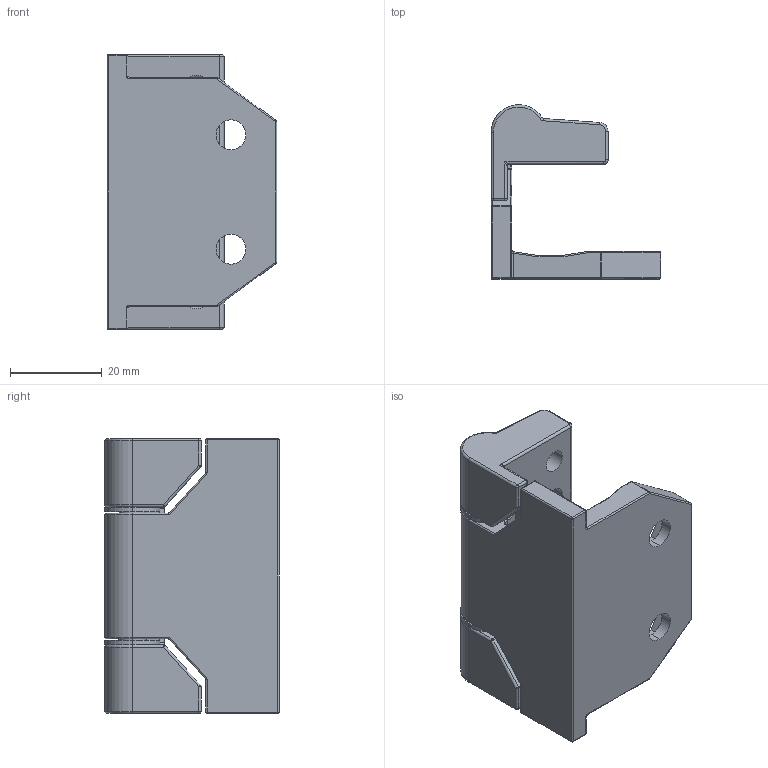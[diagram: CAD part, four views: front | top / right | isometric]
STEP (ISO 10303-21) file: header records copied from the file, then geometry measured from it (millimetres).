
FILE_DESCRIPTION (( 'STEP AP214' ), '1' );
FILE_NAME ('SK2-008.STEP', '2020-04-15T06:51:32', ( 'admin' ), ( 'Microsoft' ), 'SwSTEP 2.0', 'SolidWorks 2018', '' );
FILE_SCHEMA (( 'AUTOMOTIVE_DESIGN' ));
Length unit declared in the file: millimetre
Products named in the file (5): SK2-008-F4; SK2-008-F3; SK2-008-F2; SK2-008-F1; SK2-008
Assembly tree (5 placements, depth 2):
  SK2-008
    SK2-008-F1
    SK2-008-F2
    SK2-008-F3
    SK2-008-F4  x2
Bounding box: 37 x 38 x 60 mm (x, y, z)
Volume: 28119.6 mm3; surface area: 14699.4 mm2
Topology: 5 solids, 5 shells, 305 faces, 702 edges, 380 vertices
Faces by surface type: cylinder 140, plane 65, torus 42, sphere 28, bspline 16, cone 14
Entity records: 8757 total; most frequent: CARTESIAN_POINT 1881, DIRECTION 1515, ORIENTED_EDGE 1302, EDGE_CURVE 651, AXIS2_PLACEMENT_3D 615, VERTEX_POINT 372, CIRCLE 324, EDGE_LOOP 317
